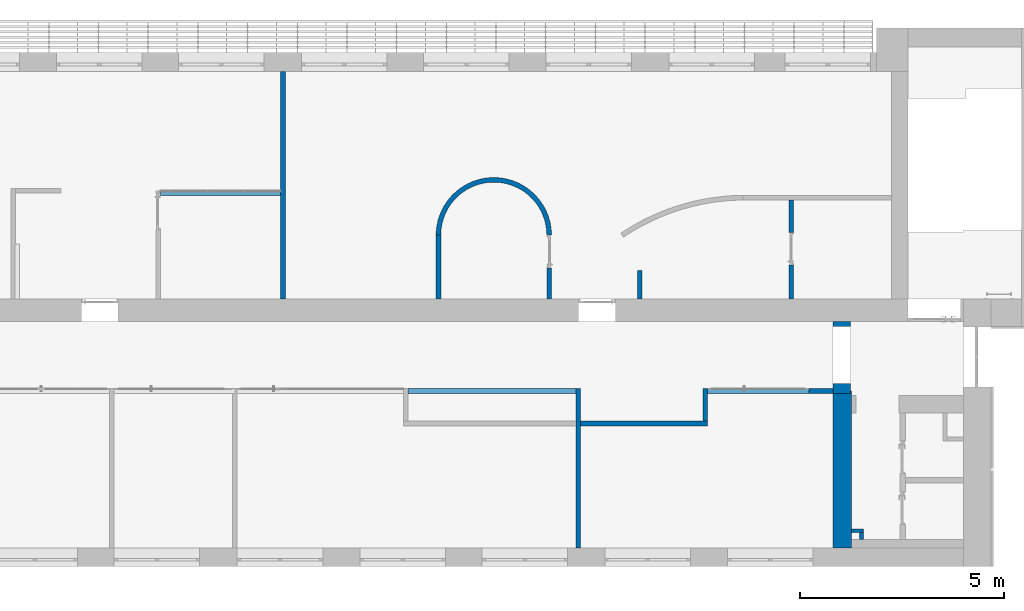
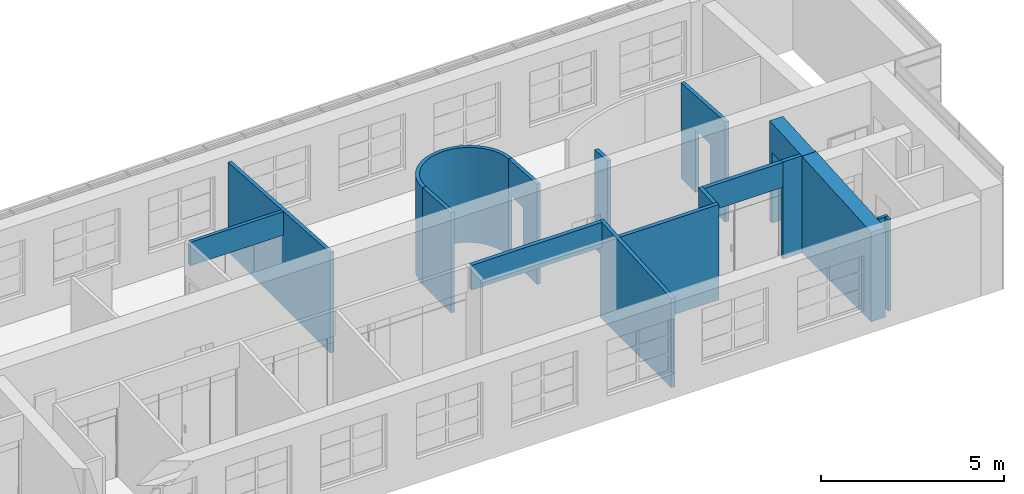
# One storey, part 33 of 46: 17 walls, 5 openings.
"""IFC2X3 building model written with IfcOpenShell, lengths in millimetres."""

from ifc_helpers import new_model, entity, si_unit, converted_unit, derived_unit, direction, frame, frame_2d, origin, place, context, subcontext, project, spatial, polyline, circle_curve, parameter, trimmed, segment, composite_curve, rectangle, outline, extrude, clip, halfspace, bounded_halfspace, material, layer, layer_set, layer_usage, type_object, element, save


model = new_model("IFC2X3")

# Units and contexts
model_context = context("Model", 3, precision=0.01, world=origin(), true_north=direction((6.12303176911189e-17, 1.0)))
body_context = subcontext(model_context, "Body", "Model", "MODEL_VIEW")
ifc_project = project(units=[si_unit("LENGTHUNIT", "METRE", prefix="MILLI"), si_unit("AREAUNIT", "SQUARE_METRE"), si_unit("VOLUMEUNIT", "CUBIC_METRE"), converted_unit("PLANEANGLEUNIT", "DEGREE", entity("IfcRatioMeasure", 0.0174532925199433), si_unit("PLANEANGLEUNIT", "RADIAN"), dimensions=[0, 0, 0, 0, 0, 0, 0]), si_unit("MASSUNIT", "GRAM", prefix="KILO"), derived_unit("MASSDENSITYUNIT", [(si_unit("MASSUNIT", "GRAM", prefix="KILO"), 1), (si_unit("LENGTHUNIT", "METRE"), -3)]), si_unit("TIMEUNIT", "SECOND"), si_unit("FREQUENCYUNIT", "HERTZ"), si_unit("THERMODYNAMICTEMPERATUREUNIT", "DEGREE_CELSIUS"), derived_unit("THERMALTRANSMITTANCEUNIT", [(si_unit("MASSUNIT", "GRAM", prefix="KILO"), 1), (si_unit("THERMODYNAMICTEMPERATUREUNIT", "KELVIN"), -1), (si_unit("TIMEUNIT", "SECOND"), -3)]), derived_unit("VOLUMETRICFLOWRATEUNIT", [(si_unit("LENGTHUNIT", "METRE"), 3), (si_unit("TIMEUNIT", "SECOND"), -1)]), si_unit("ELECTRICCURRENTUNIT", "AMPERE"), si_unit("ELECTRICVOLTAGEUNIT", "VOLT"), si_unit("POWERUNIT", "WATT"), si_unit("FORCEUNIT", "NEWTON", prefix="KILO"), si_unit("ILLUMINANCEUNIT", "LUX"), si_unit("LUMINOUSFLUXUNIT", "LUMEN"), si_unit("LUMINOUSINTENSITYUNIT", "CANDELA"), derived_unit("USERDEFINED", [(si_unit("MASSUNIT", "GRAM", prefix="KILO"), -1), (si_unit("LENGTHUNIT", "METRE"), -2), (si_unit("TIMEUNIT", "SECOND"), 3), (si_unit("LUMINOUSFLUXUNIT", "LUMEN"), 1)]), derived_unit("LINEARVELOCITYUNIT", [(si_unit("LENGTHUNIT", "METRE"), 1), (si_unit("TIMEUNIT", "SECOND"), -1)]), si_unit("PRESSUREUNIT", "PASCAL"), derived_unit("USERDEFINED", [(si_unit("LENGTHUNIT", "METRE"), -2), (si_unit("MASSUNIT", "GRAM", prefix="KILO"), 1), (si_unit("TIMEUNIT", "SECOND"), -2)])], contexts=[model_context])

# Site, building, storey
site_placement = place(None, frame((-151.875543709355, 2715.0, 0.0)))
site = spatial("IfcSite", under=ifc_project, at=site_placement, Name="Surface", CompositionType="ELEMENT")
building_placement = place(site_placement, origin())
building = spatial("IfcBuilding", under=site, at=building_placement, CompositionType="ELEMENT")
storey_placement = place(building_placement, frame((0.0, 0.0, 10060.0)))
storey = spatial("IfcBuildingStorey", under=building, at=storey_placement, Name="4 korrus", CompositionType="ELEMENT", Elevation=10060.0000000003)

# Wall, openings
ifc_material_1 = material(Name="__Kips GN13_tava")
ifc_layer_1 = layer(ifc_material_1, 20.0)
ifc_material_2 = material(Name="Brick, Common")
ifc_layer_2 = layer(ifc_material_2, 380.0)
ifc_layer_3 = layer(ifc_material_1, 20.0)
ifc_layer_set_1 = layer_set([ifc_layer_1, ifc_layer_2, ifc_layer_3], Name="Basic Wall:SS-1_420mm")
ifc_layer_usage_1 = layer_usage(ifc_layer_set_1, "AXIS2", "NEGATIVE", 210.0)
wall_type_1 = type_object("IfcWallType", Name="Basic Wall:SS-1_420mm", PredefinedType="STANDARD", material=ifc_layer_set_1)
wall_1_placement = place(storey_placement, frame((30754.0171594, 6010.0, 0.0), z_axis=(0.0, 0.0, 1.0), x_axis=(0.0, -1.0, 0.0)))
wall_1 = element("IfcWallStandardCase", 1, at=wall_1_placement, inside=storey, type_object=wall_type_1, material=ifc_layer_usage_1, Name="SEIN - 002", ObjectType="Basic Wall:SS-1_420mm", context=body_context, shape_type="SweptSolid", body=[
    extrude(rectangle(XDim=1760.95506600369, YDim=420.0, at=frame_2d((880.477533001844, 0.0), x_axis=(-1.0, 0.0))), origin(), (0.0, 0.0, 1.0), 3344.33992507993),
])
opening_1_placement = place(wall_1_placement, origin())
element("IfcOpeningElement", 2, at=opening_1_placement, cuts=wall_1, Name="SEIN - 002", ObjectType="Opening", context=body_context, shape_type="SweptSolid", body=[
    extrude(rectangle(XDim=4278.72598891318, YDim=8557.45197782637, at=frame_2d((0.0, 4.54747350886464e-13), x_axis=(1.0, 0.0))), frame((1224.5507552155, -4278.72598891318, 5409.6575058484), z_axis=(0.0, 1.0, 0.0), x_axis=(-0.0639160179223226, 0.0, -0.997955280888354)), (0.0, 0.0, 1.0), 8557.45197782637),
])
opening_2_placement = place(wall_1_placement, origin())
element("IfcOpeningElement", 3, at=opening_2_placement, cuts=wall_1, Name="SEIN - 002", ObjectType="Opening", context=body_context, shape_type="SweptSolid", body=[
    extrude(rectangle(XDim=2350.0, YDim=1401.06201172, at=frame_2d((-1.02318153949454e-12, 0.0), x_axis=(1.0, 0.0))), frame((823.999176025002, -630.0, 1175.0), z_axis=(0.0, 1.0, 0.0), x_axis=(0.0, 0.0, 1.0)), (0.0, 0.0, 1.0), 840.0),
])

# Walls
ifc_material_3 = material(Name="__Hall krohv")
ifc_layer_4 = layer(ifc_material_3, 10.0)
ifc_material_4 = material(Name="Tellis")
ifc_layer_5 = layer(ifc_material_4, 430.0)
ifc_layer_6 = layer(ifc_material_3, 10.0)
ifc_layer_set_2 = layer_set([ifc_layer_4, ifc_layer_5, ifc_layer_6], Name="Basic Wall:SS-01_ol.olev tellissein450")
ifc_layer_usage_2 = layer_usage(ifc_layer_set_2, "AXIS2", "NEGATIVE", 225.0)
wall_type_2 = type_object("IfcWallType", Name="Basic Wall:SS-01_ol.olev tellissein450", PredefinedType="STANDARD", material=ifc_layer_set_2)
wall_2_placement = place(storey_placement, frame((30769.0171594, 4307.04493399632, 0.0), z_axis=(0.0, 0.0, 1.0), x_axis=(0.0, -1.0, 0.0)))
element("IfcWallStandardCase", 4, at=wall_2_placement, inside=storey, type_object=wall_type_2, material=ifc_layer_usage_2, Name="SEIN - 002", ObjectType="Basic Wall:SS-01_ol.olev tellissein450", context=body_context, shape_type="Clipping", body=[
    clip(extrude(rectangle(XDim=3847.14030142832, YDim=450.000000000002, at=frame_2d((1923.57015071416, 0.0), x_axis=(-1.0, 0.0))), origin(), (0.0, 0.0, 1.0), 3231.86337335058), halfspace(frame((0.0, -225.0, 3231.86337335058), z_axis=(0.0657503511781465, 0.0, 0.997836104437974), x_axis=(0.0, 1.0, 0.0)), False)),
])
ifc_layer_7 = layer(ifc_material_1, 12.5)
ifc_layer_8 = layer(ifc_material_1, 12.5)
ifc_material_5 = material(Name="__Soojustus EPS")
ifc_layer_9 = layer(ifc_material_5, 66.0)
ifc_layer_10 = layer(ifc_material_1, 12.5)
ifc_layer_11 = layer(ifc_material_1, 12.5)
ifc_layer_set_3 = layer_set([ifc_layer_7, ifc_layer_8, ifc_layer_9, ifc_layer_10, ifc_layer_11], Name="Basic Wall:SS-3_Kipssein tava ruumide vahel")
ifc_layer_usage_3 = layer_usage(ifc_layer_set_3, "AXIS2", "NEGATIVE", 58.0)
wall_type_3 = type_object("IfcWallType", Name="Basic Wall:SS-3_Kipssein tava ruumide vahel", PredefinedType="STANDARD", material=ifc_layer_set_3)
wall_3_placement = place(storey_placement, frame((24287.564726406, 4365.04493399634, 0.0), z_axis=(0.0, 0.0, 1.0), x_axis=(0.0, -1.0, 0.0)))
element("IfcWallStandardCase", 5, at=wall_3_placement, inside=storey, type_object=wall_type_3, material=ifc_layer_usage_3, Name="Basic Wall:SS-3_Kipssein tava ruumide vahel", ObjectType="Basic Wall:SS-3_Kipssein tava ruumide vahel", context=body_context, shape_type="Clipping", body=[
    clip(extrude(rectangle(XDim=3905.14030142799, YDim=116.0, at=frame_2d((1952.57015071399, 0.0), x_axis=(-1.0, 0.0))), origin(), (0.0, 0.0, 1.0), 3238.66880644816), bounded_halfspace(frame((0.0, -58.0, 3238.66880644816), z_axis=(0.0638356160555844, 0.0, 0.997960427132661), x_axis=(0.0, 1.0, 0.0)), False, frame((0.0, -58.0, 3238.66880644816)), polyline([(0.0, 0.0), (116.0, 0.0), (800.0, 0.0), (916.0, 0.0), (3905.14030142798, 0.0), (3905.14030142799, 116.0), (916.0, 116.0), (800.0, 116.0), (0.0, 116.0), (0.0, 0.0)]))),
])
ifc_layer_usage_4 = layer_usage(ifc_layer_set_3, "AXIS2", "POSITIVE", -58.0)
wall_4_placement = place(storey_placement, frame((24345.564726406, 3507.04493399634, 0.0)))
element("IfcWallStandardCase", 6, at=wall_4_placement, inside=storey, type_object=wall_type_3, material=ifc_layer_usage_4, Name="Basic Wall:SS-3_Kipssein tava ruumide vahel", ObjectType="Basic Wall:SS-3_Kipssein tava ruumide vahel", context=body_context, shape_type="Clipping", body=[
    clip(extrude(rectangle(XDim=3116.00000000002, YDim=116.0, at=frame_2d((1558.00000000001, -8.88178419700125e-14), x_axis=(-1.0, 0.0))), origin(), (0.0, 0.0, 1.0), 3187.49594281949), bounded_halfspace(frame((0.0, -58.0, 3180.07587759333), z_axis=(0.0, -0.0638356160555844, 0.997960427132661), x_axis=(1.0, 0.0, 0.0)), False, frame((0.0, -58.0, 3180.07587759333)), polyline([(0.0, 0.0), (3116.0, 0.0), (3116.0, 116.0), (3000.0, 116.0), (0.0, 116.0), (0.0, 0.0)]))),
])
ifc_layer_usage_5 = layer_usage(ifc_layer_set_3, "AXIS2", "POSITIVE", -58.0)
wall_5_placement = place(storey_placement, frame((27403.564726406, 3565.04493399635, 0.0), z_axis=(0.0, 0.0, 1.0), x_axis=(0.0, 1.0, 0.0)))
element("IfcWallStandardCase", 7, at=wall_5_placement, inside=storey, type_object=wall_type_3, material=ifc_layer_usage_5, Name="Basic Wall:SS-3_Kipssein tava ruumide vahel", ObjectType="Basic Wall:SS-3_Kipssein tava ruumide vahel", context=body_context, shape_type="Clipping", body=[
    clip(extrude(rectangle(XDim=799.999999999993, YDim=116.0, at=frame_2d((399.999999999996, 0.0), x_axis=(-1.0, 0.0))), origin(), (0.0, 0.0, 1.0), 3238.66880644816), bounded_halfspace(frame((0.0, -58.0, 3187.49594281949), z_axis=(-0.0638356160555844, 0.0, 0.997960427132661), x_axis=(0.0, -1.0, 0.0)), False, frame((0.0, -58.0, 3187.49594281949)), polyline([(0.0, 0.0), (684.0, 0.0), (800.0, 0.0), (800.0, 116.0), (0.0, 116.0), (0.0, 0.0)]))),
])
ifc_layer_usage_6 = layer_usage(ifc_layer_set_3, "AXIS2", "NEGATIVE", 58.0)
wall_6_placement = place(storey_placement, frame((20115.5642948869, 4307.04493399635, 2400.0)))
element("IfcWallStandardCase", 8, at=wall_6_placement, inside=storey, type_object=wall_type_3, material=ifc_layer_usage_6, Name="Basic Wall:SS-3_Kipssein tava ruumide vahel", ObjectType="Basic Wall:SS-3_Kipssein tava ruumide vahel", context=body_context, shape_type="Clipping", body=[
    clip(extrude(rectangle(XDim=4114.00043151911, YDim=116.0, at=frame_2d((2057.00021575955, -9.59232693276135e-14), x_axis=(-1.0, 0.0))), origin(), (0.0, 0.0, 1.0), 838.668806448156), bounded_halfspace(frame((0.0, -58.0, 831.248741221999), z_axis=(0.0, -0.0638356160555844, 0.997960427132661), x_axis=(1.0, 0.0, 0.0)), False, frame((0.0, -58.0, 831.248741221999)), polyline([(0.0, 0.0), (4114.00043151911, 0.0), (4114.00043151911, 116.0), (0.0, 116.0), (0.0, 0.0)]))),
])
ifc_layer_usage_7 = layer_usage(ifc_layer_set_3, "AXIS2", "NEGATIVE", 58.0)
wall_7_placement = place(storey_placement, frame((27461.564726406, 4307.04493399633, 2400.0)))
element("IfcWallStandardCase", 9, at=wall_7_placement, inside=storey, type_object=wall_type_3, material=ifc_layer_usage_7, Name="Basic Wall:SS-3_Kipssein tava ruumide vahel", ObjectType="Basic Wall:SS-3_Kipssein tava ruumide vahel", context=body_context, shape_type="Clipping", body=[
    clip(extrude(rectangle(XDim=2482.452432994, YDim=116.0, at=frame_2d((1241.226216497, 3.5527136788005e-15), x_axis=(-1.0, 0.0))), origin(), (0.0, 0.0, 1.0), 838.668806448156), bounded_halfspace(frame((0.0, -58.0, 831.248741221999), z_axis=(0.0, -0.0638356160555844, 0.997960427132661), x_axis=(1.0, 0.0, 0.0)), False, frame((0.0, -58.0, 831.248741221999)), polyline([(0.0, 0.0), (2482.452432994, 0.0), (2482.452432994, 116.0), (0.0, 116.0), (0.0, 0.0)]))),
])

# Wall, opening
ifc_layer_usage_8 = layer_usage(ifc_layer_set_3, "AXIS2", "NEGATIVE", 58.0)
wall_8_placement = place(storey_placement, frame((29515.5931266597, 6560.0, 0.0), z_axis=(0.0, 0.0, 1.0), x_axis=(0.0, 1.0, 0.0)))
wall_8 = element("IfcWallStandardCase", 10, at=wall_8_placement, inside=storey, type_object=wall_type_3, material=ifc_layer_usage_8, Name="Basic Wall:SS-3_Kipssein tava ruumide vahel", ObjectType="Basic Wall:SS-3_Kipssein tava ruumide vahel", context=body_context, shape_type="Clipping", body=[
    clip(extrude(rectangle(XDim=2432.67041819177, YDim=116.0, at=frame_2d((1216.33520909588, 2.34479102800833e-13), x_axis=(-1.0, 0.0))), origin(), (0.0, 0.0, 1.0), 3345.80301513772), bounded_halfspace(frame((0.0, -58.0, 3345.80301513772), z_axis=(0.0638356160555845, 0.0, 0.997960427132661), x_axis=(0.0, 1.0, 0.0)), False, frame((0.0, -58.0, 3345.80301513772)), polyline([(0.0, 0.0), (2432.67041819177, 0.0), (2432.67041819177, 116.0), (0.0, 116.0), (0.0, 0.0)]))),
])
opening_3_placement = place(wall_8_placement, frame((833.456384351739, -58.0, 0.0)))
element("IfcOpeningElement", 11, at=opening_3_placement, cuts=wall_8, Name="Ühepoolsed:SU-01.:1", ObjectType="Opening", context=body_context, shape_type="SweptSolid", body=[
    extrude(rectangle(XDim=2099.99999999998, YDim=800.0, at=frame_2d((1049.99999999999, 400.0), x_axis=(1.0, 0.0))), frame((0.0, 0.0, 0.0), z_axis=(0.0, 1.0, 0.0), x_axis=(0.0, 0.0, 1.0)), (0.0, 0.0, 1.0), 116.0),
])

# Wall
ifc_layer_usage_9 = layer_usage(ifc_layer_set_3, "AXIS2", "NEGATIVE", 58.0)
wall_9_placement = place(storey_placement, frame((20857.477581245, 6560.0, 0.0), z_axis=(0.0, 0.0, 1.0), x_axis=(0.0, 1.0, 0.0)))
element("IfcWallStandardCase", 12, at=wall_9_placement, inside=storey, type_object=wall_type_3, material=ifc_layer_usage_9, Name="Basic Wall:SS-3_Kipssein tava ruumide vahel", ObjectType="Basic Wall:SS-3_Kipssein tava ruumide vahel", context=body_context, shape_type="Clipping", body=[
    clip(extrude(rectangle(XDim=1569.00000000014, YDim=116.0, at=frame_2d((784.50000000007, 0.0), x_axis=(-1.0, 0.0))), origin(), (0.0, 0.0, 1.0), 3345.80301513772), bounded_halfspace(frame((0.0, -58.0, 3345.80301513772), z_axis=(0.0638356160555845, 0.0, 0.997960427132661), x_axis=(0.0, 1.0, 0.0)), False, frame((0.0, -58.0, 3345.80301513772)), polyline([(0.0, 0.0), (1569.0, 0.0), (1569.0, 116.0), (0.0, 116.0), (0.0, 0.0)]))),
])

# Wall, opening
ifc_layer_usage_10 = layer_usage(ifc_layer_set_3, "AXIS2", "NEGATIVE", 58.0)
wall_10_placement = place(storey_placement, frame((23573.477581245, 6560.0, 0.0), z_axis=(0.0, 0.0, 1.0), x_axis=(0.0, 1.0, 0.0)))
wall_10 = element("IfcWallStandardCase", 13, at=wall_10_placement, inside=storey, type_object=wall_type_3, material=ifc_layer_usage_10, Name="Basic Wall:SS-3_Kipssein tava ruumide vahel", ObjectType="Basic Wall:SS-3_Kipssein tava ruumide vahel", context=body_context, shape_type="Clipping", body=[
    clip(extrude(rectangle(XDim=1569.00000000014, YDim=116.0, at=frame_2d((784.500000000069, 0.0), x_axis=(-1.0, 0.0))), origin(), (0.0, 0.0, 1.0), 3345.80301513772), bounded_halfspace(frame((0.0, -58.0, 3345.80301513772), z_axis=(0.0638356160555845, 0.0, 0.997960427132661), x_axis=(0.0, 1.0, 0.0)), False, frame((0.0, -58.0, 3345.80301513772)), polyline([(0.0, 0.0), (1569.0, 0.0), (1569.0, 116.0), (0.0, 116.0), (0.0, 0.0)]))),
])
opening_4_placement = place(wall_10_placement, frame((1569.0, 58.0, 0.0)))
element("IfcOpeningElement", 14, at=opening_4_placement, cuts=wall_10, Name="Ühepoolsed:SU-01:1", ObjectType="Opening", context=body_context, shape_type="SweptSolid", body=[
    extrude(rectangle(XDim=2099.99999999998, YDim=800.0, at=frame_2d((1049.99999999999, 400.0), x_axis=(1.0, 0.0))), frame((0.0, 0.0, 0.0), z_axis=(0.0, -1.0, 0.0), x_axis=(0.0, 0.0, 1.0)), (0.0, 0.0, 1.0), 116.0),
])

ifc_layer_usage_11 = layer_usage(ifc_layer_set_3, "AXIS2", "NEGATIVE", 58.0)
wall_11_placement = place(storey_placement, frame((23573.477581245, 8129.0, 0.0)))
wall_11 = element("IfcWallStandardCase", 15, at=wall_11_placement, inside=storey, type_object=wall_type_3, material=ifc_layer_usage_11, Name="Basic Wall:SS-3_Kipssein tava ruumide vahel", ObjectType="Basic Wall:SS-3_Kipssein tava ruumide vahel", context=body_context, shape_type="Clipping", body=[
    clip(extrude(outline(composite_curve([segment(trimmed(circle_curve(frame_2d((-1358.0, 0.0), x_axis=(1.0, 0.0)), 1300.0), [parameter(359.999999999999)], [parameter(180.0)], True, "PARAMETER"), False, "CONTINUOUS"), segment(polyline([(-58.0, 0.0), (58.0, 0.0)]), True, "CONTINUOUS"), segment(trimmed(circle_curve(frame_2d((-1358.0, 0.0), x_axis=(1.0, 0.0)), 1416.0), [parameter(359.999999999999)], [parameter(180.0)], True, "PARAMETER"), True, "CONTINUOUS"), segment(polyline([(-2774.0, 0.0), (-2658.0, 0.0)]), True, "CONTINUOUS")], self_intersect=False)), origin(), (0.0, 0.0, 1.0), 3247.03550858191), halfspace(frame((-2658.0, 0.0, 3245.440236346), z_axis=(0.0, 0.0638356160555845, 0.997960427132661), x_axis=(-1.0, 0.0, 0.0)), False)),
])
opening_5_placement = place(wall_11_placement, origin())
element("IfcOpeningElement", 16, at=opening_5_placement, cuts=wall_11, Name="Basic Wall:SS-3_Kipssein tava ruumide vahel", ObjectType="Opening", context=body_context, shape_type="SweptSolid", body=[
    extrude(rectangle(XDim=116.0, YDim=800.0, at=frame_2d((-2.16715534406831e-12, 0.0), x_axis=(1.0, 0.0))), frame((0.0, -400.0, 0.0), z_axis=(0.0, 0.0, 1.0), x_axis=(-1.0, 0.0, 0.0)), (0.0, 0.0, 1.0), 2099.99999999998),
])

# Walls
ifc_layer_usage_12 = layer_usage(ifc_layer_set_3, "AXIS2", "NEGATIVE", 58.0)
wall_12_placement = place(storey_placement, frame((17041.8493553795, 6560.0, 0.0), z_axis=(0.0, 0.0, 1.0), x_axis=(0.0, 1.0, 0.0)))
element("IfcWallStandardCase", 17, at=wall_12_placement, inside=storey, type_object=wall_type_3, material=ifc_layer_usage_12, Name="Basic Wall:SS-3_Kipssein tava ruumide vahel", ObjectType="Basic Wall:SS-3_Kipssein tava ruumide vahel", context=body_context, shape_type="Clipping", body=[
    clip(extrude(rectangle(XDim=5590.0, YDim=116.0, at=frame_2d((2795.0, 1.06581410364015e-13), x_axis=(-1.0, 0.0))), origin(), (0.0, 0.0, 1.0), 3345.80301513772), bounded_halfspace(frame((0.0, -58.0, 3345.80301513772), z_axis=(0.0638356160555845, 0.0, 0.997960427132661), x_axis=(0.0, 1.0, 0.0)), False, frame((0.0, -58.0, 3345.80301513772)), polyline([(0.0, 0.0), (5590.0, 0.0), (5590.0, 116.0), (2660.00115708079, 116.0), (2544.00115708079, 116.0), (0.0, 116.0), (0.0, 0.0)]))),
])
ifc_layer_usage_13 = layer_usage(ifc_layer_set_3, "AXIS2", "NEGATIVE", 58.0)
wall_13_placement = place(storey_placement, frame((25799.5931266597, 6560.0, 0.0), z_axis=(0.0, 0.0, 1.0), x_axis=(0.0, 1.0, 0.0)))
element("IfcWallStandardCase", 18, at=wall_13_placement, inside=storey, type_object=wall_type_3, material=ifc_layer_usage_13, Name="Basic Wall:SS-3_Kipssein tava ruumide vahel", ObjectType="Basic Wall:SS-3_Kipssein tava ruumide vahel", context=body_context, shape_type="Clipping", body=[
    clip(extrude(rectangle(XDim=699.999999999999, YDim=116.0, at=frame_2d((349.999999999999, 6.89226453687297e-13), x_axis=(-1.0, 0.0))), origin(), (0.0, 0.0, 1.0), 3345.80301513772), bounded_halfspace(frame((0.0, -58.0, 3345.80301513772), z_axis=(0.0638356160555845, 0.0, 0.997960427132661), x_axis=(0.0, 1.0, 0.0)), False, frame((0.0, -58.0, 3345.80301513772)), polyline([(0.0, 0.0), (700.0, 0.0), (700.0, 116.0), (0.0, 116.0), (0.0, 0.0)]))),
])
ifc_layer_usage_14 = layer_usage(ifc_layer_set_3, "AXIS2", "NEGATIVE", 58.0)
wall_14_placement = place(storey_placement, frame((30544.0171594, 4307.04493399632, 0.0), z_axis=(0.0, 0.0, 1.0), x_axis=(-1.0, 0.0, 0.0)))
element("IfcWallStandardCase", 19, at=wall_14_placement, inside=storey, type_object=wall_type_3, material=ifc_layer_usage_14, Name="Basic Wall:SS-3_Kipssein tava ruumide vahel", ObjectType="Basic Wall:SS-3_Kipssein tava ruumide vahel", context=body_context, shape_type="SweptSolid", body=[
    extrude(rectangle(XDim=599.999999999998, YDim=116.0, at=frame_2d((299.999999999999, 1.74082970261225e-13), x_axis=(-1.0, 0.0))), origin(), (0.0, 0.0, 1.0), 3240.0),
])
ifc_layer_usage_15 = layer_usage(ifc_layer_set_3, "AXIS2", "NEGATIVE", 58.0)
wall_15_placement = place(storey_placement, frame((14038.8820086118, 9162.0011570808, 2400.0)))
element("IfcWallStandardCase", 20, at=wall_15_placement, inside=storey, type_object=wall_type_3, material=ifc_layer_usage_15, Name="Basic Wall:SS-3_Kipssein tava ruumide vahel", ObjectType="Basic Wall:SS-3_Kipssein tava ruumide vahel", context=body_context, shape_type="Clipping", body=[
    clip(extrude(rectangle(XDim=2944.96734676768, YDim=116.0, at=frame_2d((1472.48367338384, -9.2370555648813e-14), x_axis=(-1.0, 0.0))), origin(), (0.0, 0.0, 1.0), 783.07323478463), bounded_halfspace(frame((0.0, -58.0, 783.07323478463), z_axis=(0.0, 0.0638356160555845, 0.997960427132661), x_axis=(-1.0, 0.0, 0.0)), False, frame((0.0, -58.0, 783.07323478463)), polyline([(0.0, 0.0), (2944.96734676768, 0.0), (2944.96734676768, 116.0), (0.0, 116.0), (0.0, 0.0)]))),
])
ifc_layer_12 = layer(ifc_material_1, 12.5)
ifc_layer_13 = layer(ifc_material_1, 12.5)
ifc_layer_14 = layer(ifc_material_5, 66.0)
ifc_layer_set_4 = layer_set([ifc_layer_12, ifc_layer_13, ifc_layer_14], Name="Basic Wall:Kipssein šahtile")
ifc_layer_usage_16 = layer_usage(ifc_layer_set_4, "AXIS2", "POSITIVE", -45.5)
wall_type_4 = type_object("IfcWallType", Name="Basic Wall:Kipssein šahtile", PredefinedType="STANDARD", material=ifc_layer_set_4)
wall_16_placement = place(storey_placement, frame((31285.0171594, 875.404632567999, 0.0), z_axis=(0.0, 0.0, 1.0), x_axis=(-1.0, 0.0, 0.0)))
element("IfcWallStandardCase", 21, at=wall_16_placement, inside=storey, type_object=wall_type_4, material=ifc_layer_usage_16, Name="Basic Wall:Kipssein šahtile", ObjectType="Basic Wall:Kipssein šahtile", context=body_context, shape_type="SweptSolid", body=[
    extrude(rectangle(XDim=290.999999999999, YDim=90.9999999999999, at=frame_2d((145.499999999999, 3.5527136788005e-14), x_axis=(-1.0, 0.0))), origin(), (0.0, 0.0, 1.0), 3050.0),
])
ifc_layer_usage_17 = layer_usage(ifc_layer_set_4, "AXIS2", "POSITIVE", -45.5)
wall_17_placement = place(storey_placement, frame((31239.5171594, 659.904632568, 0.0), z_axis=(0.0, 0.0, 1.0), x_axis=(0.0, 1.0, 0.0)))
element("IfcWallStandardCase", 22, at=wall_17_placement, inside=storey, type_object=wall_type_4, material=ifc_layer_usage_17, Name="Basic Wall:Kipssein šahtile", ObjectType="Basic Wall:Kipssein šahtile", context=body_context, shape_type="SweptSolid", body=[
    extrude(rectangle(XDim=170.0, YDim=90.9999999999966, at=frame_2d((84.9999999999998, 3.19744231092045e-14), x_axis=(-1.0, 0.0))), origin(), (0.0, 0.0, 1.0), 3050.0),
])

save(model, "model.ifc")
